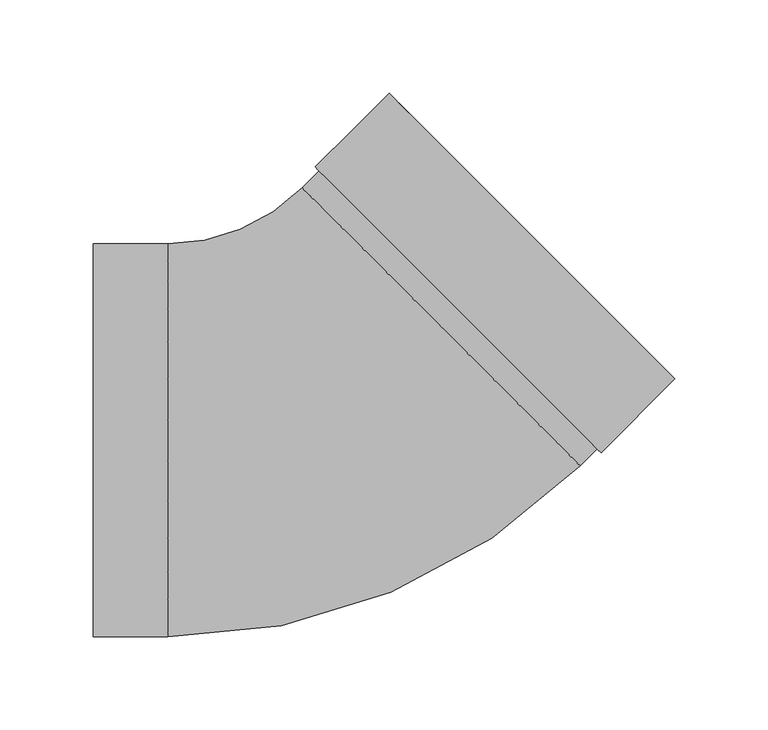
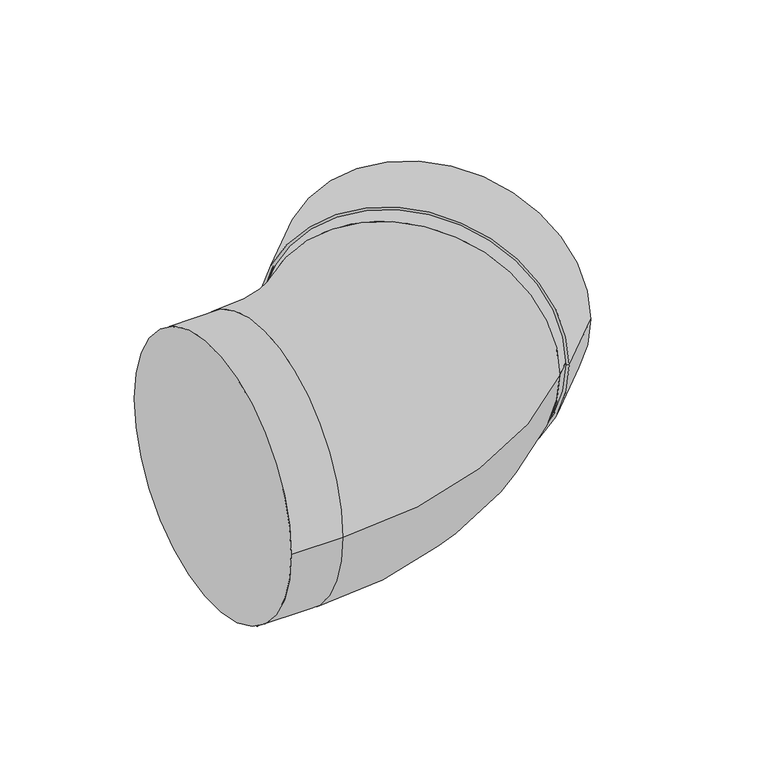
"""IFC4 building model written with IfcOpenShell, lengths in millimetres: duct fitting geometry, NLRS_57_DUF_UN_bend EPS_M&G : ø125 - ø200."""

from ifc_helpers import new_model, si_unit, point, frame, origin, place, context, project, spatial, polyline, circle_curve, ellipse_curve, trimmed, source, transform, mapped, element, save
from ifc_brep_helpers import plane_surface, cylinder_surface, revolved_surface, advanced_brep


def duct_fitting_26e6fc37(model_context):
    return source(origin(), model_context, "Body", "AdvancedBrep", [
        advanced_brep(
        [(146.7246571, -6.7175144, 0.0), (-6.7175144, 146.7246571, 0.0), (32.8804653, 186.3226368, 0.0), (186.3226368, 32.8804653, 0.0), (145.3104435, -5.3033009, 0.0), (-5.3033009, 145.3104435, 0.0), (164.4023266, 13.7885822, 0.0), (13.7885822, 164.4023266, 0.0), (162.9881131, 15.2027958, 0.0), (15.2027958, 162.9881131, 0.0), (165.8165402, 15.2027958, 0.0), (15.2027958, 165.8165402, 0.0), (16.6170094, 164.4023266, 0.0), (164.4023266, 16.6170094, 0.0), (184.9084233, 34.2946789, 0.0), (34.2946789, 184.9084233, 0.0)],
        [
            (0, 1, circle_curve(frame((70.0035713, 70.0035713, 0.0), z_axis=(0.7071067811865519, 0.7071067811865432, 0.0), x_axis=(-0.7071067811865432, 0.7071067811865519, 0.0)), 108.5)),
            (1, 2),
            (2, 3, circle_curve(frame((109.6015511, 109.6015511, 0.0), z_axis=(-0.7071067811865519, -0.7071067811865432, 0.0), x_axis=(-0.7071067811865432, 0.7071067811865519, 0.0)), 108.5)),
            (3, 0),
            (1, 0, circle_curve(frame((70.0035713, 70.0035713, 0.0), z_axis=(0.7071067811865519, 0.7071067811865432, 0.0), x_axis=(-0.7071067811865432, 0.7071067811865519, 0.0)), 108.5)),
            (3, 2, circle_curve(frame((109.6015511, 109.6015511, 0.0), z_axis=(-0.7071067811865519, -0.7071067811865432, 0.0), x_axis=(-0.7071067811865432, 0.7071067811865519, 0.0)), 108.5)),
            (4, 5, circle_curve(frame((70.0035713, 70.0035713, 0.0), z_axis=(0.7071067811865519, 0.7071067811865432, 0.0), x_axis=(-0.7071067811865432, 0.7071067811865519, 0.0)), 106.5)),
            (5, 1),
            (0, 4),
            (5, 4, circle_curve(frame((70.0035713, 70.0035713, 0.0), z_axis=(0.7071067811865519, 0.7071067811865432, 0.0), x_axis=(-0.7071067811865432, 0.7071067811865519, 0.0)), 106.5)),
            (6, 7, circle_curve(frame((89.0954544, 89.0954544, 0.0), z_axis=(0.7071067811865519, 0.7071067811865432, 0.0), x_axis=(-0.7071067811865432, 0.7071067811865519, 0.0)), 106.5)),
            (7, 5),
            (4, 6),
            (7, 6, circle_curve(frame((89.0954544, 89.0954544, 0.0), z_axis=(0.7071067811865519, 0.7071067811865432, 0.0), x_axis=(-0.7071067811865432, 0.7071067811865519, 0.0)), 106.5)),
            (8, 9, circle_curve(frame((89.0954544, 89.0954544, 0.0), z_axis=(0.7071067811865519, 0.7071067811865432, 0.0), x_axis=(-0.7071067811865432, 0.7071067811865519, 0.0)), 104.5)),
            (9, 7),
            (6, 8),
            (9, 8, circle_curve(frame((89.0954544, 89.0954544, 0.0), z_axis=(0.7071067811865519, 0.7071067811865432, 0.0), x_axis=(-0.7071067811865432, 0.7071067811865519, 0.0)), 104.5)),
            (10, 11, circle_curve(frame((90.509668, 90.509668, 0.0), z_axis=(0.7071067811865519, 0.7071067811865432, 0.0), x_axis=(-0.7071067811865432, 0.7071067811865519, 0.0)), 106.5)),
            (11, 12),
            (12, 13, circle_curve(frame((90.509668, 90.509668, 0.0), z_axis=(-0.7071067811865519, -0.7071067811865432, 0.0), x_axis=(-0.7071067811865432, 0.7071067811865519, 0.0)), 104.5)),
            (13, 10),
            (11, 10, circle_curve(frame((90.509668, 90.509668, 0.0), z_axis=(0.7071067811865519, 0.7071067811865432, 0.0), x_axis=(-0.7071067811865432, 0.7071067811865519, 0.0)), 106.5)),
            (13, 12, circle_curve(frame((90.509668, 90.509668, 0.0), z_axis=(-0.7071067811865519, -0.7071067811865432, 0.0), x_axis=(-0.7071067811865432, 0.7071067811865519, 0.0)), 104.5)),
            (14, 15, circle_curve(frame((109.6015511, 109.6015511, 0.0), z_axis=(0.7071067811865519, 0.7071067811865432, 0.0), x_axis=(-0.7071067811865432, 0.7071067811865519, 0.0)), 106.5)),
            (15, 11),
            (10, 14),
            (15, 14, circle_curve(frame((109.6015511, 109.6015511, 0.0), z_axis=(0.7071067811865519, 0.7071067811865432, 0.0), x_axis=(-0.7071067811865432, 0.7071067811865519, 0.0)), 106.5)),
            (2, 15),
            (14, 3),
            (12, 9),
            (8, 13),
        ],
        [
            cylinder_surface(frame((1486.6920074, 1486.6920074, 0.0), z_axis=(-0.7071067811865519, -0.7071067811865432, 0.0), x_axis=(-0.7071067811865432, 0.7071067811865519, 0.0)), 108.5),
            plane_surface(frame((70.0035713, 70.0035713, 0.0), z_axis=(-0.7071067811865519, -0.7071067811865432, 0.0), x_axis=(-0.7071067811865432, 0.7071067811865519, 0.0))),
            revolved_surface(polyline([(-5.303300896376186, 145.31044349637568, 0.0), (13.788582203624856, 164.4023265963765, 0.0)]), (1486.6920074, 1486.6920074, 0.0), (-0.7071067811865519, -0.7071067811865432, 0.0)),
            plane_surface(frame((89.0954544, 89.0954544, 0.0), z_axis=(-0.7071067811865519, -0.7071067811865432, 0.0), x_axis=(-0.7071067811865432, 0.7071067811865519, 0.0))),
            plane_surface(frame((90.509668, 90.509668, 0.0), z_axis=(0.7071067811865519, 0.7071067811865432, 0.0), x_axis=(-0.7071067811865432, 0.7071067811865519, 0.0))),
            revolved_surface(polyline([(15.202795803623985, 165.81654019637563, 0.0), (34.29467890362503, 184.90842329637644, 0.0)]), (1486.6920074, 1486.6920074, 0.0), (-0.7071067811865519, -0.7071067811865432, 0.0)),
            plane_surface(frame((109.6015511, 109.6015511, 0.0), z_axis=(0.7071067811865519, 0.7071067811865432, 0.0), x_axis=(-0.7071067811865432, 0.7071067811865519, 0.0))),
            revolved_surface(polyline([(15.202795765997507, 162.98811303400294, 0.0), (16.617009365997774, 164.4023266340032, 0.0)]), (1486.6920074, 1486.6920074, 0.0), (-0.7071067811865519, -0.7071067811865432, 0.0)),
        ],
        [
            (0, [[1, 2, 3, 4]]),
            (0, [[5, -4, 6, -2]]),
            (1, [[7, 8, -1, 9]]),
            (1, [[10, -9, -5, -8]]),
            (2, [[11, 12, -7, 13]]),
            (2, [[14, -13, -10, -12]]),
            (3, [[15, 16, -11, 17]]),
            (3, [[18, -17, -14, -16]]),
            (4, [[19, 20, 21, 22]]),
            (4, [[23, -22, 24, -20]]),
            (5, [[25, 26, -19, 27]]),
            (5, [[28, -27, -23, -26]]),
            (6, [[-3, 29, -25, 30]]),
            (6, [[-6, -30, -28, -29]]),
            (7, [[-21, 31, -15, 32]]),
            (7, [[-24, -32, -18, -31]]),
        ],
    ),
        advanced_brep(
        [(-126.0, -105.5, 0.0), (-126.0, 105.5, 0.0), (-86.0, -105.5, 0.0), (-86.0, 105.5, 0.0), (-13.7885822, 135.4109486, 0.0), (135.4109486, -13.7885822, 0.0), (163.6952198, 14.495689, 0.0), (14.495689, 163.6952198, 0.0)],
        [
            (0, 1, circle_curve(frame((-126.0, 0.0, 0.0), z_axis=(-1.0, 0.0, 0.0), x_axis=(0.0, 1.0, 0.0)), 105.5)),
            (1, 0, circle_curve(frame((-126.0, 0.0, 0.0), z_axis=(-1.0, 0.0, 0.0), x_axis=(0.0, 1.0, 0.0)), 105.5)),
            (0, 2),
            (2, 3, circle_curve(frame((-86.0, 0.0, 0.0), z_axis=(-1.0, 0.0, 0.0), x_axis=(0.0, 1.0, 0.0)), 105.5)),
            (3, 1),
            (3, 2, circle_curve(frame((-86.0, 0.0, 0.0), z_axis=(-1.0, 0.0, 0.0), x_axis=(0.0, 1.0, 0.0)), 105.5)),
            (4, 3, circle_curve(frame((-86.0, 207.6223664, 0.0), z_axis=(0.0, 0.0, -1.0), x_axis=(0.0, -1.0, 0.0)), 102.1223664)),
            (2, 5, circle_curve(frame((-86.0, 207.6223664, 0.0), z_axis=(0.0, 0.0, 1.0), x_axis=(0.0, -1.0, 0.0)), 313.1223664)),
            (5, 4, circle_curve(frame((60.8111832, 60.8111832, 0.0), z_axis=(-0.7071067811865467, -0.7071067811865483, 0.0), x_axis=(-0.7071067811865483, 0.7071067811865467, 0.0)), 105.5)),
            (4, 5, circle_curve(frame((60.8111832, 60.8111832, 0.0), z_axis=(-0.7071067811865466, -0.7071067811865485, 0.0), x_axis=(-0.7071067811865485, 0.7071067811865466, 0.0)), 105.5)),
            (6, 7, circle_curve(frame((89.0954544, 89.0954544, 0.0), z_axis=(0.7071067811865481, 0.7071067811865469, 0.0), x_axis=(-0.7071067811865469, 0.7071067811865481, 0.0)), 105.5)),
            (7, 6, circle_curve(frame((89.0954544, 89.0954544, 0.0), z_axis=(0.7071067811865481, 0.7071067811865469, 0.0), x_axis=(-0.7071067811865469, 0.7071067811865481, 0.0)), 105.5)),
            (5, 6),
            (7, 4),
        ],
        [
            plane_surface(frame((-126.0, 0.0, 0.0), z_axis=(-1.0, 0.0, 0.0), x_axis=(0.0, 0.0, 1.0))),
            cylinder_surface(frame((-126.0, 0.0, 0.0), z_axis=(-1.0, 0.0, 0.0), x_axis=(0.0, 1.0, 0.0)), 105.5),
            revolved_surface(trimmed(ellipse_curve(frame((-86.0, 0.0, 0.0), z_axis=(-1.0, 0.0, 0.0), x_axis=(0.0, 1.0, 0.0)), 105.5, 105.5), [point((-86.0, -105.5, 0.0))], [point((-86.0, 105.5, 0.0))], True, "CARTESIAN"), (-86.0, 207.6223664, 0.0), (0.0, 0.0, 1.0)),
            revolved_surface(trimmed(ellipse_curve(frame((-86.0, 0.0, 0.0), z_axis=(-1.0, 0.0, 0.0), x_axis=(0.0, 1.0, 0.0)), 105.5, 105.5), [point((-86.0, 105.5, 0.0))], [point((-86.0, -105.5, 0.0))], True, "CARTESIAN"), (-86.0, 207.6223664, 0.0), (0.0, 0.0, 1.0)),
            plane_surface(frame((89.0954544, 89.0954544, 0.0), z_axis=(0.7071067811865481, 0.7071067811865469, 0.0), x_axis=(0.0, 0.0, 1.0))),
            cylinder_surface(frame((60.8111832, 60.8111832, 0.0), z_axis=(-0.7071067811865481, -0.7071067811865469, 0.0), x_axis=(-0.7071067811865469, 0.7071067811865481, 0.0)), 105.5),
        ],
        [
            (0, [[1, 2]]),
            (1, [[-1, 3, 4, 5]]),
            (1, [[-2, -5, 6, -3]]),
            (2, [[7, -4, 8, 9]]),
            (3, [[-8, -6, -7, 10]]),
            (4, [[11, 12]]),
            (5, [[-9, 13, -12, 14]]),
            (5, [[-10, -14, -11, -13]]),
        ],
    ),
    ])


if __name__ == "__main__":
    model = new_model("IFC4")
    model_context = context("Model", 3, world=origin())
    ifc_project = project(units=[si_unit("LENGTHUNIT", "METRE", prefix="MILLI")], contexts=[model_context])
    site = spatial("IfcSite", under=ifc_project)
    building = spatial("IfcBuilding", under=site)
    placement = place(None, origin())
    duct_fitting_shape = duct_fitting_26e6fc37(model_context)
    element("IfcDuctFitting", 1, ObjectType="NLRS_57_DUF_UN_bend EPS_M&G : ø125 - ø200", at=placement, inside=building, context=model_context, shape_type="MappedRepresentation", body=[
        mapped(duct_fitting_shape, transform((0.0, 0.0, 0.0), x_axis=(1.0, 0.0, 0.0), y_axis=(0.0, 1.0, 0.0), z_axis=(0.0, 0.0, 1.0))),
    ])
    save(model, "model.ifc")
